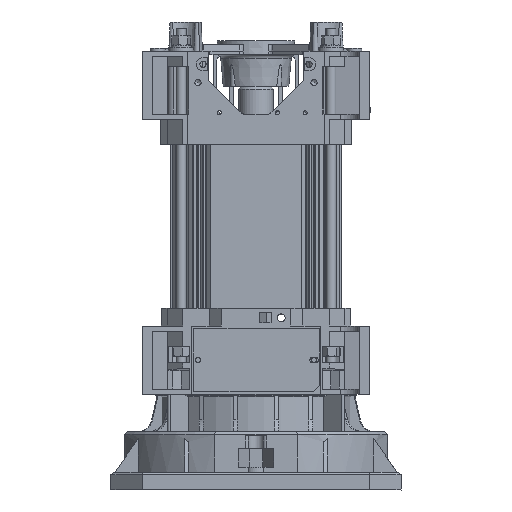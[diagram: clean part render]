
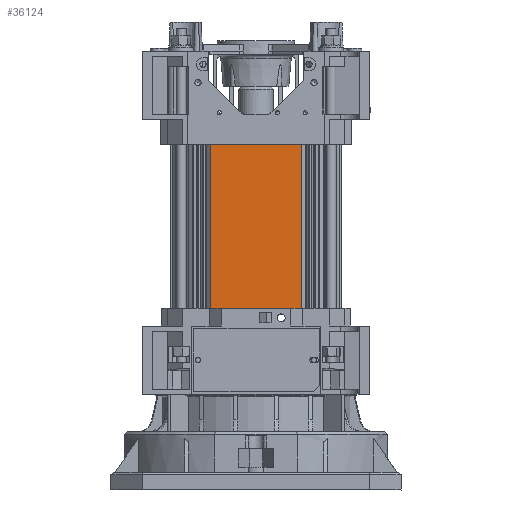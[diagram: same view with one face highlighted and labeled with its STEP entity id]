
A CAD part, left-side view. The second image highlights one B-rep face of the part: STEP entity #36124.
In plain terms, the highlighted planar face has unit normal (-1, 0, 0).
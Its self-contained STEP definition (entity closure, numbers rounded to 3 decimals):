
#4035=LINE('',#63068,#7298);
#4037=LINE('',#63072,#7300);
#4038=LINE('',#63074,#7301);
#4039=LINE('',#63075,#7302);
#7298=VECTOR('',#49938,10.);
#7300=VECTOR('',#49942,10.);
#7301=VECTOR('',#49943,10.);
#7302=VECTOR('',#49944,10.);
#8526=PLANE('',#39780);
#10636=FACE_OUTER_BOUND('',#12806,.T.);
#12806=EDGE_LOOP('',(#33049,#33050,#33051,#33052));
#17759=VERTEX_POINT('',#63065);
#17760=VERTEX_POINT('',#63067);
#17761=VERTEX_POINT('',#63071);
#17762=VERTEX_POINT('',#63073);
#22918=EDGE_CURVE('',#17760,#17759,#4035,.T.);
#22920=EDGE_CURVE('',#17759,#17761,#4037,.T.);
#22921=EDGE_CURVE('',#17762,#17761,#4038,.T.);
#22922=EDGE_CURVE('',#17762,#17760,#4039,.T.);
#33049=ORIENTED_EDGE('',*,*,#22920,.T.);
#33050=ORIENTED_EDGE('',*,*,#22921,.F.);
#33051=ORIENTED_EDGE('',*,*,#22922,.T.);
#33052=ORIENTED_EDGE('',*,*,#22918,.T.);
#36124=ADVANCED_FACE('',(#10636),#8526,.T.);
#39780=AXIS2_PLACEMENT_3D('',#63070,#49940,#49941);
#49938=DIRECTION('',(0.,0.,1.));
#49940=DIRECTION('center_axis',(-1.,0.,0.));
#49941=DIRECTION('ref_axis',(0.,0.,1.));
#49942=DIRECTION('',(0.,1.,0.));
#49943=DIRECTION('',(0.,0.,1.));
#49944=DIRECTION('',(0.,-1.,0.));
#63065=CARTESIAN_POINT('',(6476.011,-1945.032,140.));
#63067=CARTESIAN_POINT('',(6476.011,-1945.032,0.));
#63068=CARTESIAN_POINT('',(6476.011,-1945.032,0.));
#63070=CARTESIAN_POINT('Origin',(6476.011,-1945.032,0.));
#63071=CARTESIAN_POINT('',(6476.011,-1872.567,140.));
#63072=CARTESIAN_POINT('',(6476.011,-1872.567,140.));
#63073=CARTESIAN_POINT('',(6476.011,-1872.567,0.));
#63074=CARTESIAN_POINT('',(6476.011,-1872.567,0.));
#63075=CARTESIAN_POINT('',(6476.011,-1872.567,0.));
